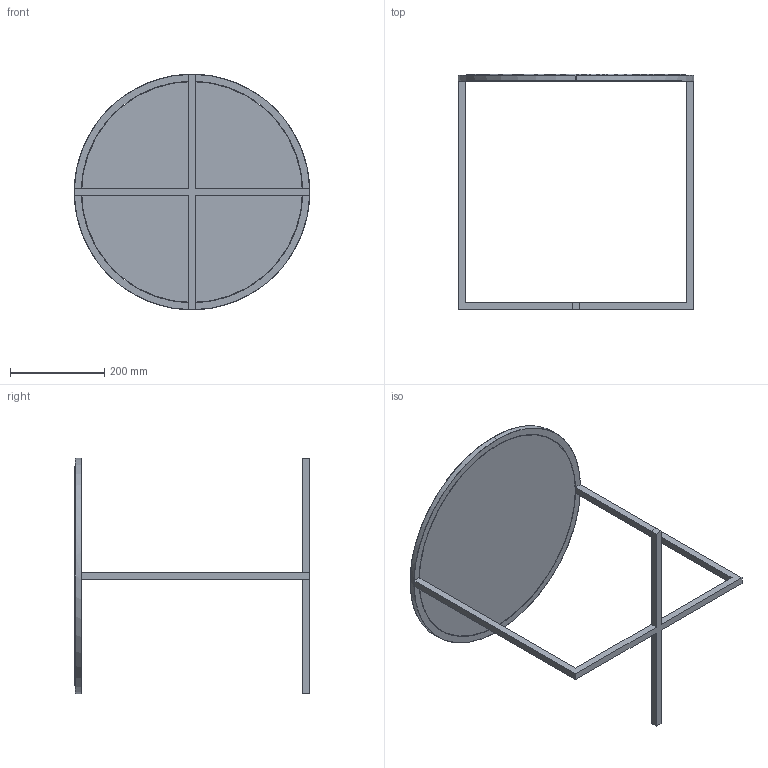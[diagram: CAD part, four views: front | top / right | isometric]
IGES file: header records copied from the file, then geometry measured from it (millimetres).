
Start section: SolidWorks IGES file using analytic representation for surfaces
Global section: file name: V:\01-VICCARBE\VICCARBE HISTORICOS\VICCARBE 2006 TECNICO\PRODUCCION\PRODUCTOS\FAMILIAS 2D - 3D\3D (IGES + STL)\04-HOLY DAY\IGES\mesa HD50.IGS; native system: SolidWorks 2005 by SolidWorks Corporation; preprocessor: SolidWorks 2005 by SolidWorks Corporation; author: FSanz; date: 070521.123626; units: millimetre
Bounding box: 500 x 499 x 500 mm (x, y, z)
Surface area: 560299.4 mm2 (no closed solid volume)
Topology: 0 solids, 0 shells, 33 faces, 884 edges, 1056 vertices
Faces by surface type: bspline 27, revolution 6
